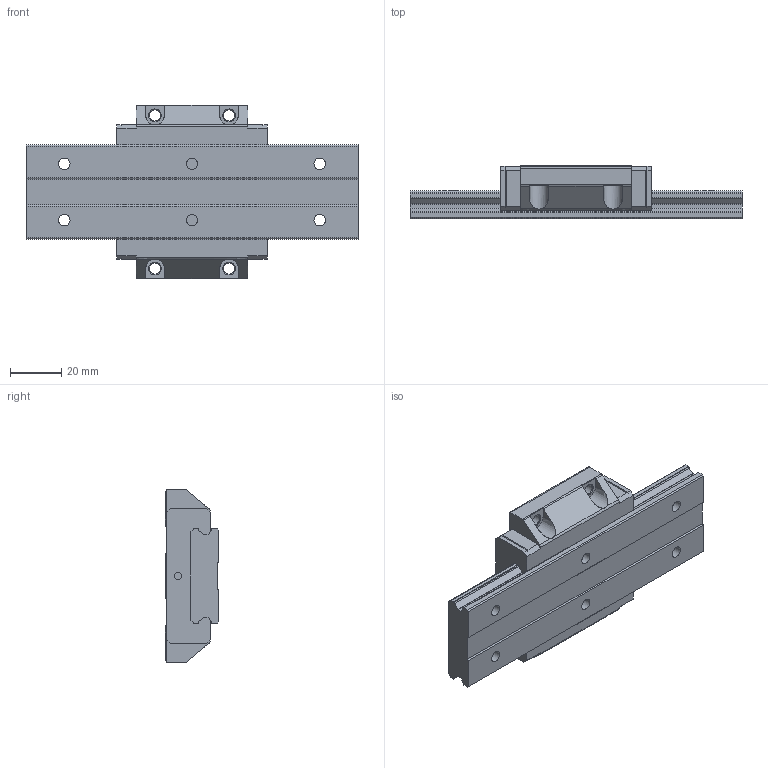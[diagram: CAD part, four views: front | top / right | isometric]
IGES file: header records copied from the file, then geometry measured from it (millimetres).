
Start section: Data from Parasolid IGES Translator 26.0.171, Copyright(c) 2006 Siemens PLM Software. All Rights Reserved.
Global section: file name: SHW21CA1SS-130L_G15_0_Without_grease_nipple_35-5_0_0_01.igs; native system: By Siemens PLM Incorporated; preprocessor: XPlus GENERIC/IGES 26.0.171; author: Noname; organization: Noname; date: 20240517.081758; units: millimetre
Bounding box: 130 x 21 x 68 mm (x, y, z)
Surface area: 27858.5 mm2 (no closed solid volume)
Topology: 0 solids, 0 shells, 197 faces, 1084 edges, 1032 vertices
Faces by surface type: extrusion 121, revolution 76
